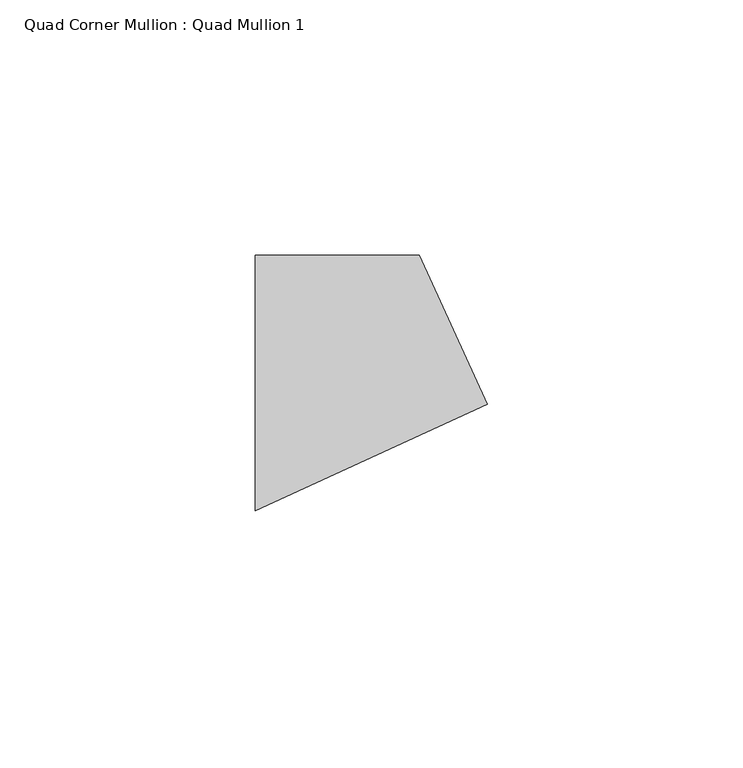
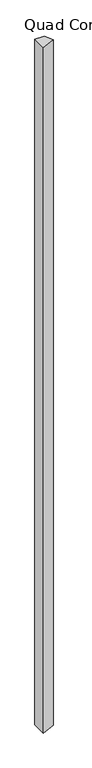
"""IFC4 building model written with IfcOpenShell, lengths in millimetres: member geometry, Quad Corner Mullion : Quad Mullion 1."""

import ifcopenshell
import ifcopenshell.guid

model = None  # the IFC model being written
_history = None  # IfcOwnerHistory: only IFC2X3 demands one
_inside = {}  # id of a spatial element -> (the spatial element, [elements in it])
_under = {}  # id of a project, library or spatial element -> (it, [spatial elements below it])
_declared = {}  # id of a project -> (the project, [libraries it declares])
_typed = {}  # id of a type object -> (the type object, [elements of that type])
_made_of = {}  # id of a material, layer set ... -> (it, [elements and type objects made of it])


def new_model(schema):
    """Start an empty IFC model of exactly this schema.

    Asked for "IFC4X3", IfcOpenShell would pick the latest addendum, in which some entities
    have other attributes; the version numbers below select the first issue.
    IFC2X3 requires an IfcOwnerHistory on every rooted entity: one is made here for all.
    """
    global model, _history
    if schema == "IFC4X3":
        model = ifcopenshell.file(schema_version=(4, 3, 0, 0))
    else:
        model = ifcopenshell.file(schema=schema)
    _inside.clear()
    _under.clear()
    _declared.clear()
    _typed.clear()
    _made_of.clear()
    _history = None
    if model.schema == "IFC2X3":
        org = make("IfcOrganization", Name="unknown")
        user = make(
            "IfcPersonAndOrganization",
            ThePerson=make("IfcPerson", FamilyName="unknown"),
            TheOrganization=org,
        )
        app = make(
            "IfcApplication",
            ApplicationDeveloper=org,
            Version="unknown",
            ApplicationFullName="unknown",
            ApplicationIdentifier="unknown",
        )
        _history = make(
            "IfcOwnerHistory",
            OwningUser=user,
            OwningApplication=app,
            ChangeAction="ADDED",
            CreationDate=0,
        )
    return model


def make(cls, **values):
    """One entity of the class cls with the attributes given. An attribute that is None is left unset."""
    return model.create_entity(
        cls, **{name: value for name, value in values.items() if value is not None}
    )


def rooted(cls, **values):
    """An entity with a GlobalId (a new one), such as an element, a storey or a relation."""
    return make(cls, GlobalId=ifcopenshell.guid.new(), OwnerHistory=_history, **values)


def si_unit(unit_type, name, prefix=None):
    """IfcSIUnit, for example si_unit("LENGTHUNIT", "METRE", prefix="MILLI")."""
    return make("IfcSIUnit", UnitType=unit_type, Prefix=prefix, Name=name)


def assignment(units):
    """IfcUnitAssignment: the units of a project."""
    return None if units is None else make("IfcUnitAssignment", Units=units)


def point(xyz):
    """IfcCartesianPoint."""
    return None if xyz is None else make("IfcCartesianPoint", Coordinates=xyz)


def direction(xyz):
    """IfcDirection."""
    return None if xyz is None else make("IfcDirection", DirectionRatios=xyz)


def frame(location, z_axis=None, x_axis=None):
    """IfcAxis2Placement3D, a coordinate frame: its origin and axes. An axis left out is left unset."""
    return make(
        "IfcAxis2Placement3D",
        Location=point(location),
        Axis=direction(z_axis),
        RefDirection=direction(x_axis),
    )


def origin():
    """The frame at (0, 0, 0) with its axes left unset."""
    return frame((0.0, 0.0, 0.0))


def place(relative_to, where):
    """IfcLocalPlacement: puts the frame where relative to a parent placement (None: the world)."""
    return make(
        "IfcLocalPlacement", PlacementRelTo=relative_to, RelativePlacement=where
    )


def context(
    kind, dimensions, precision=None, world=None, true_north=None, identifier=None
):
    """IfcGeometricRepresentationContext, for example the 3D "Model" context."""
    return make(
        "IfcGeometricRepresentationContext",
        ContextIdentifier=identifier,
        ContextType=kind,
        CoordinateSpaceDimension=dimensions,
        Precision=precision,
        WorldCoordinateSystem=world,
        TrueNorth=true_north,
    )


def project(units=None, contexts=None):
    """IfcProject with its units and contexts."""
    return rooted(
        "IfcProject",
        Name="project",
        RepresentationContexts=contexts,
        UnitsInContext=assignment(units),
    )


def spatial(cls, under=None, at=None, **own):
    """A site, building, storey or space (cls), placed at a placement, below another one or the project."""
    s = rooted(cls, ObjectPlacement=at, **own)
    if under is not None:
        _under.setdefault(under.id(), (under, []))[1].append(s)
    return s


def polyline(points):
    """IfcPolyline through the points."""
    return make("IfcPolyline", Points=[point(p) for p in points])


def outline(outer, holes=None, kind="AREA"):
    """IfcArbitraryClosedProfileDef: a profile drawn as a closed curve; with holes, ...WithVoids."""
    if holes is None:
        return make("IfcArbitraryClosedProfileDef", ProfileType=kind, OuterCurve=outer)
    return make(
        "IfcArbitraryProfileDefWithVoids",
        ProfileType=kind,
        OuterCurve=outer,
        InnerCurves=holes,
    )


def extrude(swept, where, along, depth):
    """IfcExtrudedAreaSolid: the profile swept, set in the frame where, extruded along a direction by depth."""
    return make(
        "IfcExtrudedAreaSolid",
        SweptArea=swept,
        Position=where,
        ExtrudedDirection=direction(along),
        Depth=depth,
    )


def shape(context_of_items, identifier, shape_type, items):
    """IfcShapeRepresentation: the items that make up one representation, for example the "Body"."""
    return make(
        "IfcShapeRepresentation",
        ContextOfItems=context_of_items,
        RepresentationIdentifier=identifier,
        RepresentationType=shape_type,
        Items=items,
    )


def source(mapping_origin, context_of_items, identifier, shape_type, items):
    """IfcRepresentationMap: a shape defined once, which mapped items show again and again."""
    return make(
        "IfcRepresentationMap",
        MappingOrigin=mapping_origin,
        MappedRepresentation=shape(context_of_items, identifier, shape_type, items),
    )


def transform(
    local_origin,
    x_axis=None,
    y_axis=None,
    z_axis=None,
    scale=None,
    scale2=None,
    scale3=None,
    uniform=True,
):
    """IfcCartesianTransformationOperator3D, or its non-uniform kind. x_axis, y_axis, z_axis: its Axis1, 2, 3."""
    if uniform:
        return make(
            "IfcCartesianTransformationOperator3D",
            Axis1=direction(x_axis),
            Axis2=direction(y_axis),
            LocalOrigin=point(local_origin),
            Scale=scale,
            Axis3=direction(z_axis),
        )
    return make(
        "IfcCartesianTransformationOperator3DnonUniform",
        Axis1=direction(x_axis),
        Axis2=direction(y_axis),
        LocalOrigin=point(local_origin),
        Scale=scale,
        Axis3=direction(z_axis),
        Scale2=scale2,
        Scale3=scale3,
    )


def mapped(mapping_source, mapping_target):
    """IfcMappedItem: shows the shape of a source again, moved by a transform."""
    return make(
        "IfcMappedItem", MappingSource=mapping_source, MappingTarget=mapping_target
    )


def made_of(thing, what):
    """Note that an element or type object is made of a material, layer set ...; save() writes the relation."""
    if what is not None:
        _made_of.setdefault(what.id(), (what, []))[1].append(thing)
    return thing


def element(
    cls,
    number,
    at=None,
    inside=None,
    cuts=None,
    type_object=None,
    material=None,
    context=None,
    identifier="Body",
    shape_type=None,
    held_by="IfcProductDefinitionShape",
    body=None,
    shapes=None,
    **own,
):
    """One element of the class cls, such as IfcWall. Its Tag is "e" and its number.

    at: its placement. inside: the storey or other place that contains it. cuts: it is an
    opening in that element (IfcRelVoidsElement). A single representation is given by context,
    identifier, shape_type and body (its items); several are given by shapes. held_by: the class
    of the entity that holds the representations. save() writes the other relations.
    """
    e = rooted(cls, Tag="e%d" % number, ObjectPlacement=at, **own)
    if body is not None:
        shapes = [shape(context, identifier, shape_type, body)]
    if shapes is not None:
        e.Representation = make(held_by, Representations=shapes)
    if inside is not None:
        _inside.setdefault(inside.id(), (inside, []))[1].append(e)
    if cuts is not None:
        rooted(
            "IfcRelVoidsElement", RelatingBuildingElement=cuts, RelatedOpeningElement=e
        )
    if type_object is not None:
        _typed.setdefault(type_object.id(), (type_object, []))[1].append(e)
    return made_of(e, material)


def aggregate(whole, parts):
    """IfcRelAggregates: a whole, such as a stair, and the parts it consists of."""
    return rooted("IfcRelAggregates", RelatingObject=whole, RelatedObjects=parts)


def save(model, path):
    """Write the relations noted so far, then the file.

    IfcRelAggregates (storeys below a building ...), IfcRelContainedInSpatialStructure (elements
    in a storey), IfcRelDefinesByType, IfcRelAssociatesMaterial and IfcRelDeclares: one each for
    every whole, place, type object, material and project.
    """
    for whole, parts in _under.values():
        aggregate(whole, parts)
    for where, things in _inside.values():
        rooted(
            "IfcRelContainedInSpatialStructure",
            RelatedElements=things,
            RelatingStructure=where,
        )
    for kind, things in _typed.values():
        rooted("IfcRelDefinesByType", RelatedObjects=things, RelatingType=kind)
    for what, things in _made_of.values():
        rooted("IfcRelAssociatesMaterial", RelatedObjects=things, RelatingMaterial=what)
    for by, libraries in _declared.values():
        rooted("IfcRelDeclares", RelatingContext=by, RelatedDefinitions=libraries)
    model.write(path)


def quad_corner_mullion_quad_mullion_1_6b4c796a(model_context):
    return source(origin(), model_context, "Body", "SweptSolid", [
        extrude(outline(polyline([(29.4125559, -4.1926582), (-16.0523154, -25.0), (-16.0523154, 25.0), (16.0523154, 25.0), (29.4125559, -4.1926582)])), frame((0.0, 0.0, -2451.7109283), z_axis=(0.0, 0.0, 1.0), x_axis=(1.0, 0.0, 0.0)), (0.0, 0.0, 1.0), 2451.7109283),
    ])


if __name__ == "__main__":
    model = new_model("IFC4")
    model_context = context("Model", 3, world=origin())
    ifc_project = project(units=[si_unit("LENGTHUNIT", "METRE", prefix="MILLI")], contexts=[model_context])
    site = spatial("IfcSite", under=ifc_project)
    building = spatial("IfcBuilding", under=site)
    placement = place(None, origin())
    quad_corner_mullion_quad_mullion_1_shape = quad_corner_mullion_quad_mullion_1_6b4c796a(model_context)
    element("IfcMember", 1, ObjectType="Quad Corner Mullion : Quad Mullion 1", at=placement, inside=building, context=model_context, shape_type="MappedRepresentation", body=[
        mapped(quad_corner_mullion_quad_mullion_1_shape, transform((0.0, 0.0, 0.0), x_axis=(1.0, 0.0, 0.0), y_axis=(0.0, 1.0, 0.0), z_axis=(0.0, 0.0, 1.0))),
    ])
    save(model, "model.ifc")
